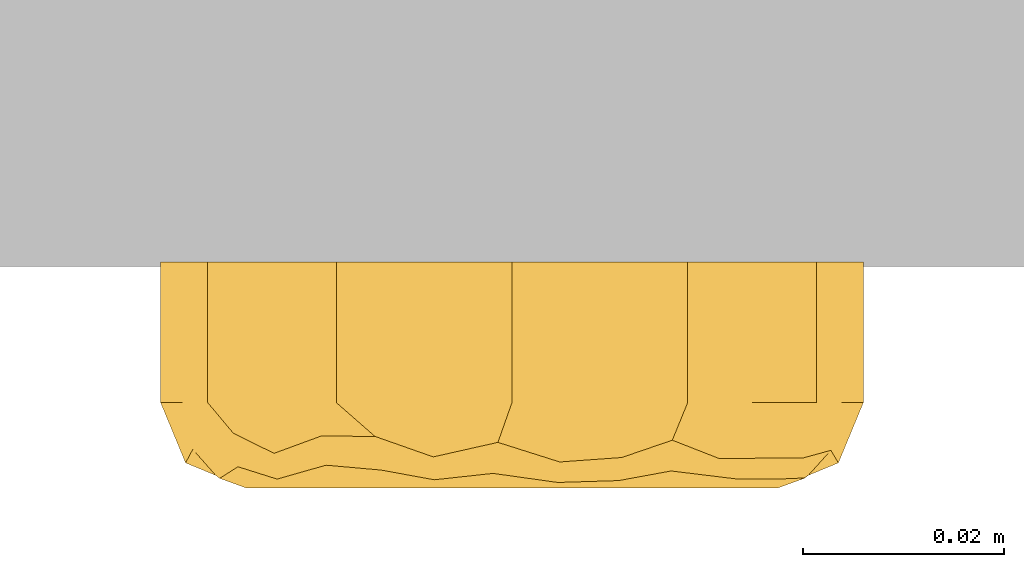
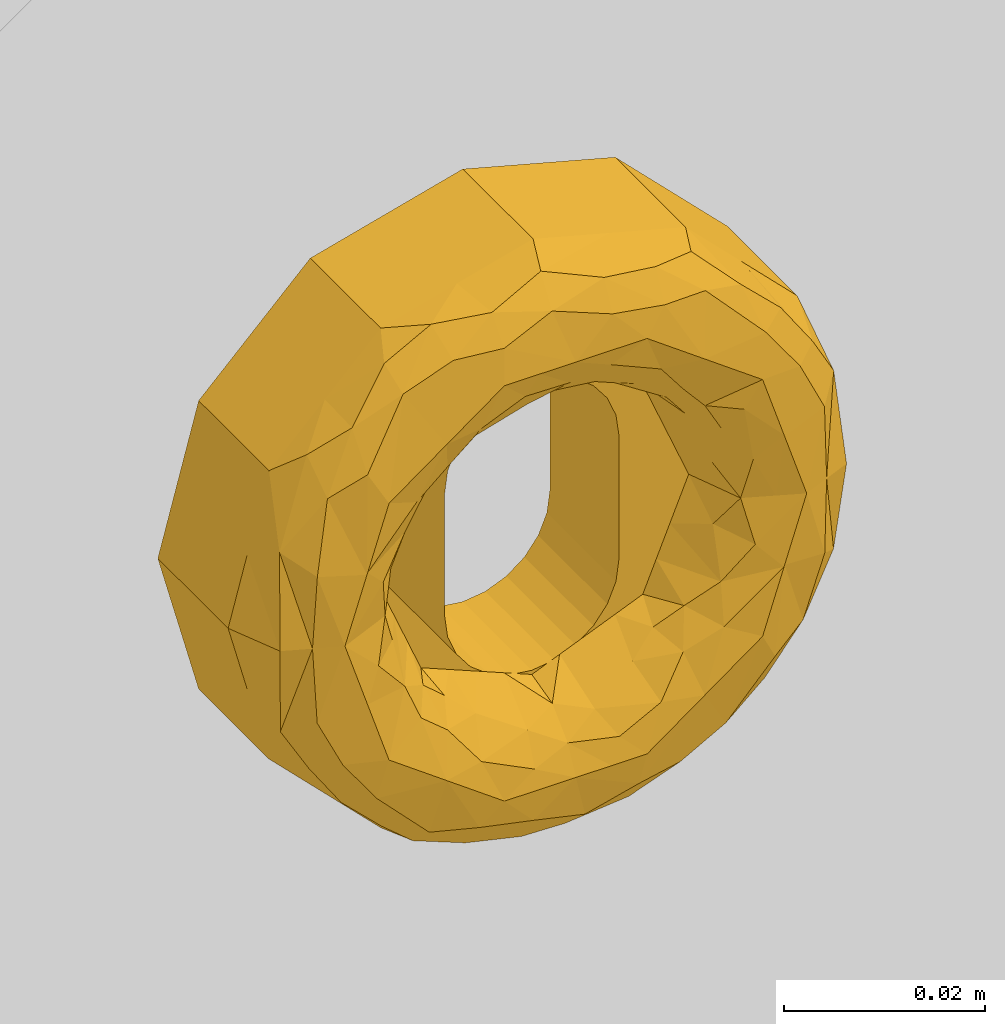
# One storey, part 2 of 2: 1 door.
"""IFC2X3 building model written with IfcOpenShell, lengths in feet."""

from ifc_helpers import new_model, entity, si_unit, converted_unit, derived_unit, direction, frame, origin, place, context, subcontext, project, spatial, face_set, surface_model, source, transform, mapped, type_object, type_shapes, element, save


model = new_model("IFC2X3")

# Units and contexts
model_context = context("Model", 3, precision=0.0001, world=origin(), true_north=direction((6.12303176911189e-17, 1.0)))
body_context = subcontext(model_context, "Body", "Model", "MODEL_VIEW")
ifc_project = project(units=[converted_unit("LENGTHUNIT", "FOOT", entity("IfcRatioMeasure", 0.3048), si_unit("LENGTHUNIT", "METRE"), dimensions=[1, 0, 0, 0, 0, 0, 0]), converted_unit("AREAUNIT", "SQUARE FOOT", entity("IfcRatioMeasure", 0.09290304), si_unit("AREAUNIT", "SQUARE_METRE"), dimensions=[2, 0, 0, 0, 0, 0, 0]), converted_unit("VOLUMEUNIT", "CUBIC FOOT", entity("IfcRatioMeasure", 0.028316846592), si_unit("VOLUMEUNIT", "CUBIC_METRE"), dimensions=[3, 0, 0, 0, 0, 0, 0]), converted_unit("PLANEANGLEUNIT", "DEGREE", entity("IfcRatioMeasure", 0.0174532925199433), si_unit("PLANEANGLEUNIT", "RADIAN"), dimensions=[0, 0, 0, 0, 0, 0, 0]), si_unit("MASSUNIT", "GRAM", prefix="KILO"), derived_unit("MASSDENSITYUNIT", [(si_unit("MASSUNIT", "GRAM", prefix="KILO"), 1), (si_unit("LENGTHUNIT", "METRE"), -3)]), si_unit("TIMEUNIT", "SECOND"), si_unit("FREQUENCYUNIT", "HERTZ"), si_unit("THERMODYNAMICTEMPERATUREUNIT", "DEGREE_CELSIUS"), derived_unit("THERMALTRANSMITTANCEUNIT", [(si_unit("MASSUNIT", "GRAM", prefix="KILO"), 1), (si_unit("THERMODYNAMICTEMPERATUREUNIT", "KELVIN"), -1), (si_unit("TIMEUNIT", "SECOND"), -3)]), derived_unit("VOLUMETRICFLOWRATEUNIT", [(si_unit("LENGTHUNIT", "METRE"), 3), (si_unit("TIMEUNIT", "SECOND"), -1)]), si_unit("ELECTRICCURRENTUNIT", "AMPERE"), si_unit("ELECTRICVOLTAGEUNIT", "VOLT"), si_unit("POWERUNIT", "WATT"), si_unit("FORCEUNIT", "NEWTON"), si_unit("ILLUMINANCEUNIT", "LUX"), si_unit("LUMINOUSFLUXUNIT", "LUMEN"), si_unit("LUMINOUSINTENSITYUNIT", "CANDELA"), derived_unit("USERDEFINED", [(si_unit("MASSUNIT", "GRAM", prefix="KILO"), -1), (si_unit("LENGTHUNIT", "METRE"), -2), (si_unit("TIMEUNIT", "SECOND"), 3), (si_unit("LUMINOUSFLUXUNIT", "LUMEN"), 1)]), derived_unit("LINEARVELOCITYUNIT", [(si_unit("LENGTHUNIT", "METRE"), 1), (si_unit("TIMEUNIT", "SECOND"), -1)]), si_unit("PRESSUREUNIT", "PASCAL"), derived_unit("USERDEFINED", [(si_unit("LENGTHUNIT", "METRE"), -2), (si_unit("MASSUNIT", "GRAM", prefix="KILO"), 1), (si_unit("TIMEUNIT", "SECOND"), -2)])], contexts=[model_context])

# Site, building, storey
site_placement = place(None, origin())
site = spatial("IfcSite", under=ifc_project, at=site_placement, Name="Default", CompositionType="ELEMENT")
building_placement = place(site_placement, origin())
building = spatial("IfcBuilding", under=site, at=building_placement, CompositionType="ELEMENT")
storey_placement = place(building_placement, origin())
storey = spatial("IfcBuildingStorey", under=building, at=storey_placement, Name="Level 1", CompositionType="ELEMENT", Elevation=0.0)

# Door
door_style = type_object("IfcDoorStyle", Name="dline_Hardware_TomDixonCollection_Escutcheons_Oval_Half_SnapOn_13.25", ConstructionType="NOTDEFINED", OperationType="DOUBLE_SWING_RIGHT", ParameterTakesPrecedence=False, Sizeable=False)
shared_shape = source(origin(), body_context, "Body", "SurfaceModel", [
    surface_model("IfcFaceBasedSurfaceModel", [(-0.114829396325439, 0.0, -0.00161922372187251), (-0.0994451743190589, 0.0574146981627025, -0.00161922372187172), (-0.0574146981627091, 0.0994451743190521, -0.00161922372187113), (0.0, 0.114829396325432, -0.00161922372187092), (0.0574146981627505, 0.099445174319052, -0.00161922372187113), (0.0994451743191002, 0.0574146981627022, -0.00161922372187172), (0.11482939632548, 0.0, -0.00161922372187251), (0.0328083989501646, 0.0, -0.00161922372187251), (0.0328083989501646, 0.0246062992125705, -0.00161922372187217), (0.0316904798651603, 0.0330977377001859, -0.00161922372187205), (0.0284129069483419, 0.0410104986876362, -0.00161922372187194), (0.023199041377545, 0.0478053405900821, -0.00161922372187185), (0.0164041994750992, 0.0530192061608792, -0.00161922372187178), (0.00849143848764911, 0.0562967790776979, -0.00161922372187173), (0.0, 0.0574146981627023, -0.00161922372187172), (-0.0084914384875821, 0.056296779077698, -0.00161922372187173), (-0.0164041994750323, 0.0530192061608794, -0.00161922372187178), (-0.0231990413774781, 0.0478053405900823, -0.00161922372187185), (-0.028412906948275, 0.0410104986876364, -0.00161922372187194), (-0.0316904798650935, 0.0330977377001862, -0.00161922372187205), (-0.0328083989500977, 0.0246062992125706, -0.00161922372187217), (-0.0328083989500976, 0.0, -0.00161922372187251), (0.0994451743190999, -0.0574146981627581, -0.0016192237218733), (0.0574146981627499, -0.0994451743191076, -0.00161922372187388), (0.0, -0.114829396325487, -0.0016192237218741), (-0.0574146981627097, -0.099445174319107, -0.00161922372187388), (-0.0994451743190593, -0.0574146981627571, -0.0016192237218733), (-0.0328083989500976, -0.0246062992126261, -0.00161922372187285), (-0.0316904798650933, -0.0330977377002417, -0.00161922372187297), (-0.0284129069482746, -0.0410104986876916, -0.00161922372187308), (-0.0231990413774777, -0.0478053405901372, -0.00161922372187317), (-0.016404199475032, -0.053019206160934, -0.00161922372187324), (-0.00849143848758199, -0.0562967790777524, -0.00161922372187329), (0.0, -0.0574146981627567, -0.0016192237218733), (0.00849143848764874, -0.0562967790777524, -0.00161922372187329), (0.0164041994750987, -0.0530192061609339, -0.00161922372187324), (0.0231990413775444, -0.0478053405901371, -0.00161922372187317), (0.0284129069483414, -0.0410104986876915, -0.00161922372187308), (0.03169047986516, -0.0330977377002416, -0.00161922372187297), (0.0328083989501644, -0.0246062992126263, -0.00161922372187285), (0.105366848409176, 0.0353147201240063, 0.0442913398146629), (0.107137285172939, 0.0287073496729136, -0.0016192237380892), (-0.107137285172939, 0.0287073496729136, 0.0442913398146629), (-0.0994451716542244, 0.0574146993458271, 0.0442913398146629), (-0.107137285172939, 0.0287073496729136, -0.0016192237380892), (0.0784299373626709, 0.0784299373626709, 0.0442913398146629), (0.0994451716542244, 0.0574146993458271, 0.0442913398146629), (0.0784299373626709, 0.0784299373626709, -0.0016192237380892), (0.114829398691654, 0.0, 0.0442913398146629), (0.0574146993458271, 0.0994451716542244, 0.0442913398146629), (0.0287073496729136, 0.107137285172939, -0.0016192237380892), (0.0, 0.114829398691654, 0.0442913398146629), (0.0287073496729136, 0.107137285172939, 0.0442913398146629), (-0.0287073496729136, 0.107137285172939, 0.0442913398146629), (-0.0287073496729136, 0.107137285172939, -0.0016192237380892), (-0.0784299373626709, 0.0784299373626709, -0.0016192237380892), (-0.0784299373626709, 0.0784299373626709, 0.0442913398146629), (-0.0574146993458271, 0.0994451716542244, 0.0442913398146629), (-0.114829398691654, 0.0, 0.0442913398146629), (-0.105366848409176, -0.0353147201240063, 0.0442913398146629), (-0.107137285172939, -0.0287073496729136, -0.0016192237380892), (0.107137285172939, -0.0287073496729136, 0.0442913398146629), (0.0994451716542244, -0.0574146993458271, 0.0442913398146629), (0.107137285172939, -0.0287073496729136, -0.0016192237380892), (-0.0784299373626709, -0.0784299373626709, 0.0442913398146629), (-0.0994451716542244, -0.0574146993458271, 0.0442913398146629), (-0.0784299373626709, -0.0784299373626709, -0.0016192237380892), (-0.0574146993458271, -0.0994451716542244, 0.0442913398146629), (-0.0287073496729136, -0.107137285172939, -0.0016192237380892), (0.0, -0.114829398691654, 0.0442913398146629), (-0.0287073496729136, -0.107137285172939, 0.0442913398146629), (0.0287073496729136, -0.107137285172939, 0.0442913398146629), (0.0287073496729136, -0.107137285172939, -0.0016192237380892), (0.0784299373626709, -0.0784299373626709, -0.0016192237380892), (0.0784299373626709, -0.0784299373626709, 0.0442913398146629), (0.0574146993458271, -0.0994451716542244, 0.0442913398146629), (0.104185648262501, 0.0354321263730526, 0.0599091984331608), (0.10769384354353, 0.0266302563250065, 0.0442913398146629), (-0.00460470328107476, 0.111512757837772, 0.0573030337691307), (-0.0257417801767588, 0.105345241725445, 0.0620490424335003), (-0.00619756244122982, 0.102307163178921, 0.0674389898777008), (0.0358880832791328, 0.102162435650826, 0.0622435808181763), (0.0155927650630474, 0.105819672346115, 0.0637049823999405), (0.095525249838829, 0.0295866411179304, 0.0689313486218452), (0.0948657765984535, 0.0518237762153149, 0.062460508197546), (0.086100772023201, 0.0492820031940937, 0.0693365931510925), (-0.0607702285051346, 0.086708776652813, 0.0647584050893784), (-0.0427446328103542, 0.0948088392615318, 0.0663538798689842), (-0.0447977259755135, 0.103246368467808, 0.0553425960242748), (0.106661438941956, 0.0, 0.0640105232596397), (0.0676873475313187, 0.0841498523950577, 0.0625807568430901), (0.0520024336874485, 0.0896197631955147, 0.0666459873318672), (0.0733057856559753, 0.0671199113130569, 0.0692450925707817), (0.0703377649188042, 0.051103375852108, 0.0721784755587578), (0.0523817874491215, 0.0989614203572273, 0.0565925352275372), (0.0348720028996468, 0.0918425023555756, 0.0697874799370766), (-0.0623906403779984, 0.093721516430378, 0.0552425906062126), (0.0968018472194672, 0.0, 0.0680944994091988), (0.0486022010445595, 0.0668951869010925, 0.0721784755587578), (-0.104311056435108, 0.0357333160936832, 0.0595848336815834), (-0.0895434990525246, 0.0554412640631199, 0.0652685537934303), (-0.0910296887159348, 0.0668764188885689, 0.0543423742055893), (-0.0253979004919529, 0.0954931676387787, 0.0695258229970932), (-0.0486022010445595, 0.0668951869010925, 0.0721784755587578), (-0.0777445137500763, 0.0769081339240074, 0.0608819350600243), (-0.0767557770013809, 0.0629682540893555, 0.0693009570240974), (-0.0955414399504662, 0.0286489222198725, 0.0690663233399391), (-0.0968018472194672, 0.0, 0.0680944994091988), (-0.10769384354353, 0.0266302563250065, 0.0442913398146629), (-0.106661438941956, 0.0, 0.0640105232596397), (0.0149465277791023, 0.0955802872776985, 0.0703999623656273), (-0.0786400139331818, 0.025551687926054, 0.0721784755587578), (-0.0869422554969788, 0.0, 0.0721784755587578), (0.0869422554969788, 0.0, 0.0721784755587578), (0.0786400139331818, 0.025551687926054, 0.0721784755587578), (0.0827525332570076, 0.069546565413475, 0.0624632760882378), (0.0268666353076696, 0.0826869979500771, 0.0721784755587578), (0.0, 0.0826869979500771, 0.0721784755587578), (-0.0703377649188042, 0.051103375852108, 0.0721784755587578), (-0.0268666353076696, 0.0826869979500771, 0.0721784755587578), (-0.104185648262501, -0.0354321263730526, 0.0599091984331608), (-0.10769384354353, -0.0266302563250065, 0.0442913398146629), (0.0895434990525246, -0.0554412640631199, 0.0652685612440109), (0.0786400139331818, -0.025551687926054, 0.0721784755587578), (0.0767557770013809, -0.0629682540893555, 0.0693009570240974), (0.10769384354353, -0.0266302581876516, 0.0442913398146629), (0.104311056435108, -0.0357333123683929, 0.0595848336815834), (-0.095525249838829, -0.0295866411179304, 0.0689313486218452), (-0.0948657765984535, -0.0518237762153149, 0.062460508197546), (-0.086100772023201, -0.0492820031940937, 0.0693365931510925), (-0.0486022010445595, -0.0668951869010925, 0.0721784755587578), (-0.0703377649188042, -0.051103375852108, 0.0721784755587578), (-0.0733057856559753, -0.0671199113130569, 0.0692450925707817), (-0.0358880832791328, -0.102162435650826, 0.0622435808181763), (-0.0155927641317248, -0.105819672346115, 0.0637049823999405), (-0.0676873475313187, -0.0841498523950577, 0.0625807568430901), (-0.0520024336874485, -0.0896197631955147, 0.0666459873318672), (-0.0348720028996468, -0.0918425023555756, 0.0697874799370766), (0.00460470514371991, -0.111512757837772, 0.0573030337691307), (0.0910296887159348, -0.0668764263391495, 0.0543423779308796), (0.0607702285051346, -0.0867087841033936, 0.0647584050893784), (0.0447977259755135, -0.103246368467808, 0.0553425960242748), (0.0623906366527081, -0.093721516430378, 0.0552425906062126), (0.0427446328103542, -0.0948088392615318, 0.0663538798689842), (0.025397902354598, -0.0954931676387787, 0.0695258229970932), (0.0257417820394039, -0.105345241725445, 0.0620490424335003), (0.0777445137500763, -0.0769081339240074, 0.0608819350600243), (0.0955414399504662, -0.0286489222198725, 0.0690663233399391), (0.00619756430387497, -0.102307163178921, 0.0674389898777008), (-0.0149465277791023, -0.0955802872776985, 0.0703999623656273), (0.0486022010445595, -0.0668951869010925, 0.0721784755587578), (-0.0523817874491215, -0.0989614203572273, 0.0565925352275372), (-0.0786400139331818, -0.025551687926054, 0.0721784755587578), (-0.0827525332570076, -0.069546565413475, 0.0624632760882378), (-0.0268666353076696, -0.0826869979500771, 0.0721784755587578), (0.0, -0.0826869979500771, 0.0721784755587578), (0.0703377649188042, -0.051103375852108, 0.0721784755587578), (0.0268666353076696, -0.0826869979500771, 0.0721784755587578), (0.0595088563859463, 0.030643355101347, 0.0637183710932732), (0.0784134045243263, 0.0262491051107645, 0.0721784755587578), (0.0484802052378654, 0.0383875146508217, 0.0564348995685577), (0.044356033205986, 0.052351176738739, 0.0653110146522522), (0.0548929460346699, 0.0432777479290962, 0.0663662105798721), (-0.0606496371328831, 0.0123952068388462, 0.0565691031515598), (-0.0519581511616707, 0.0171627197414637, 0.0434711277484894), (-0.0590671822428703, 0.0, 0.0434711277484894), (0.0724360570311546, 0.0148040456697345, 0.0689583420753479), (0.06114686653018, 0.0148187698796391, 0.0584502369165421), (0.0669351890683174, 0.0, 0.0637183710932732), (0.0590671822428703, 0.0, 0.0434711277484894), (0.000194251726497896, 0.0621994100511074, 0.0571559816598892), (0.000380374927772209, 0.0715737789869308, 0.0675622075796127), (0.0129081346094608, 0.0648935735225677, 0.0628922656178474), (0.0519581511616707, 0.0171627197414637, 0.0434711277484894), (0.0337963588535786, 0.0663290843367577, 0.0692203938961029), (-0.0784134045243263, 0.0262491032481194, 0.0721784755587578), (-0.0578487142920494, 0.0450543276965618, 0.0686270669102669), (0.0468624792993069, 0.0294647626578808, 0.0434711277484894), (-0.0595088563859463, 0.030643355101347, 0.0637183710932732), (-0.0700549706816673, 0.0169776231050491, 0.0678898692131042), (-0.0337963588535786, 0.0663290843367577, 0.0692203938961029), (-0.0123898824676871, 0.0651603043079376, 0.063072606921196), (-0.029567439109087, 0.055287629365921, 0.05807089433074), (-0.0669351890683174, 0.0, 0.0637183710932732), (-0.044356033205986, 0.052351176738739, 0.0653110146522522), (-0.0487650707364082, 0.039685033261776, 0.0583744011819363), (0.0417668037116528, 0.0417668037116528, 0.0434711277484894), (0.0394373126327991, 0.0467448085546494, 0.0549166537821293), (0.0143742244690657, 0.0754772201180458, 0.0702819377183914), (0.0208834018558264, 0.0504169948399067, 0.0434711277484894), (0.0104417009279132, 0.0547420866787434, 0.0434711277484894), (-0.0313251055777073, 0.0460918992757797, 0.0434711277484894), (-0.0390795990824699, 0.0469961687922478, 0.0548264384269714), (0.0295674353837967, 0.0552876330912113, 0.0580708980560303), (-0.0104417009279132, 0.0547420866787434, 0.0434711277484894), (-0.0134333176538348, 0.0826869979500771, 0.0721784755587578), (-0.017739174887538, 0.0738889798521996, 0.0699371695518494), (0.0313251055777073, 0.0460918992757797, 0.0434711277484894), (-0.0417668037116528, 0.0417668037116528, 0.0434711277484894), (-0.0468624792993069, 0.0294647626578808, 0.0434711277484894), (-0.0208834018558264, 0.0504169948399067, 0.0434711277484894), (0.0, 0.0590671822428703, 0.0434711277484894), (-0.0647844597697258, -0.0398912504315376, 0.0699765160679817), (-0.0695305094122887, -0.0168505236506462, 0.0675413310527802), (-0.0784134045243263, -0.0262491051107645, 0.0721784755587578), (-0.0295674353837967, -0.0552876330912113, 0.05807089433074), (-0.0435471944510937, -0.0435946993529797, 0.0559706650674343), (-0.0313251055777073, -0.0460918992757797, 0.0434711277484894), (-0.0208834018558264, -0.0504169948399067, 0.0434711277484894), (-0.0104417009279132, -0.0547420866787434, 0.0434711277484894), (-0.0129081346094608, -0.0648935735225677, 0.0628922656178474), (-0.059508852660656, -0.0306433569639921, 0.0637183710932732), (-0.0530390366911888, -0.042167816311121, 0.0645321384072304), (-0.0743755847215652, -0.0386762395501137, 0.0721784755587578), (-0.0417668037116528, -0.0417668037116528, 0.0434711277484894), (-0.0510150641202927, -0.0340855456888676, 0.0553797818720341), (0.0606496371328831, -0.0123952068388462, 0.0565691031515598), (0.0519581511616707, -0.0171627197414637, 0.0434711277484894), (-0.0337963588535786, -0.0663290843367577, 0.0692203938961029), (-0.0443560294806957, -0.0523511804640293, 0.0653110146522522), (0.044356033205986, -0.052351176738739, 0.0653110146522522), (0.0337963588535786, -0.0663290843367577, 0.0692203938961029), (0.0784134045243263, -0.0262491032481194, 0.0721784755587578), (0.0578487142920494, -0.0450543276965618, 0.0686270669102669), (0.0595088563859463, -0.030643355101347, 0.0637183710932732), (0.0700549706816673, -0.0169776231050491, 0.0678898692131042), (-0.060554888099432, -0.0119150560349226, 0.056179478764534), (0.0123898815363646, -0.0651603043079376, 0.063072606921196), (0.0295674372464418, -0.055287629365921, 0.05807089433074), (-0.0776933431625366, 0.0, 0.0682675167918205), (0.0487650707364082, -0.039685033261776, 0.0583744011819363), (-0.0143742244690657, -0.0754772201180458, 0.0702819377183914), (0.0104417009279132, -0.0547420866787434, 0.0434711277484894), (0.0208834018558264, -0.0504169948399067, 0.0434711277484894), (0.0313251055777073, -0.0460918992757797, 0.0434711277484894), (0.0390795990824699, -0.0469961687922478, 0.0548264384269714), (-0.000194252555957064, -0.0621994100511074, 0.0571559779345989), (-0.000380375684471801, -0.0715737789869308, 0.0675622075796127), (0.0134333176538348, -0.0826869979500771, 0.0721784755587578), (0.017739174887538, -0.0738889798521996, 0.0699371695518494), (-0.0519581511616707, -0.0171627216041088, 0.0434711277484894), (-0.0468624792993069, -0.0294647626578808, 0.0434711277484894), (0.0417668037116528, -0.0417668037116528, 0.0434711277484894), (0.0468624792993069, -0.0294647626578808, 0.0434711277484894), (0.0, -0.0590671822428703, 0.0434711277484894), (-0.0328083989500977, 0.0, 0.0434711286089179), (-0.0328083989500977, 0.0246062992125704, 0.0434711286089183), (-0.0316904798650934, 0.0330977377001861, 0.0434711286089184), (-0.0284129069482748, 0.0410104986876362, 0.0434711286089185), (-0.0231990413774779, 0.0478053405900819, 0.0434711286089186), (-0.0164041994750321, 0.0530192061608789, 0.0434711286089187), (-0.00849143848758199, 0.0562967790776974, 0.0434711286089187), (0.0, 0.0574146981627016, 0.0434711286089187), (0.008491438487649, 0.0562967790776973, 0.0434711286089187), (0.0164041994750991, 0.0530192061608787, 0.0434711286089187), (0.0231990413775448, 0.0478053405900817, 0.0434711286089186), (0.0284129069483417, 0.0410104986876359, 0.0434711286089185), (0.0316904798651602, 0.0330977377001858, 0.0434711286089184), (0.0328083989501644, 0.0246062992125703, 0.0434711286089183), (0.0328083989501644, 0.0, 0.0434711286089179), (0.0328083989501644, -0.0246062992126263, 0.0434711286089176), (0.0316904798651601, -0.0330977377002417, 0.0434711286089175), (0.0284129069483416, -0.0410104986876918, 0.0434711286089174), (0.0231990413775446, -0.0478053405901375, 0.0434711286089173), (0.0164041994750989, -0.0530192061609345, 0.0434711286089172), (0.00849143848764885, -0.056296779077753, 0.0434711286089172), (0.0, -0.0574146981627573, 0.0434711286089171), (-0.00849143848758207, -0.056296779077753, 0.0434711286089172), (-0.0164041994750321, -0.0530192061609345, 0.0434711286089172), (-0.0231990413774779, -0.0478053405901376, 0.0434711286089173), (-0.0284129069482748, -0.0410104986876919, 0.0434711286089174), (-0.0316904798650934, -0.0330977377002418, 0.0434711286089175), (-0.0328083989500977, -0.0246062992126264, 0.0434711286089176)], [face_set([[[0, 1, 2, 3, 4, 5, 6, 7, 8, 9, 10, 11, 12, 13, 14, 15, 16, 17, 18, 19, 20, 21]], [[6, 22, 23, 24, 25, 26, 0, 21, 27, 28, 29, 30, 31, 32, 33, 34, 35, 36, 37, 38, 39, 7]], [[5, 40, 41]], [[42, 43, 1, 44]], [[45, 46, 5, 47]], [[41, 48, 6]], [[48, 41, 40]], [[49, 45, 47, 4]], [[50, 3, 51, 52]], [[5, 46, 40]], [[4, 50, 52, 49]], [[53, 51, 3, 54]], [[55, 1, 43, 56]], [[2, 55, 56, 57]], [[44, 0, 58, 42]], [[54, 2, 57, 53]], [[26, 59, 60]], [[61, 62, 22, 63]], [[64, 65, 26, 66]], [[60, 58, 0]], [[58, 60, 59]], [[67, 64, 66, 25]], [[68, 24, 69, 70]], [[26, 65, 59]], [[25, 68, 70, 67]], [[71, 69, 24, 72]], [[73, 22, 62, 74]], [[23, 73, 74, 75]], [[63, 6, 48, 61]], [[72, 23, 75, 71]], [[46, 76, 77]], [[78, 79, 80]], [[81, 52, 82]], [[83, 84, 85]], [[86, 87, 88]], [[76, 89, 77]], [[90, 91, 92]], [[76, 84, 83]], [[85, 92, 93]], [[94, 91, 90]], [[91, 81, 95]], [[78, 53, 79]], [[78, 82, 52]], [[89, 48, 77]], [[88, 96, 86]], [[83, 97, 76]], [[98, 93, 92]], [[99, 100, 101]], [[84, 46, 45]], [[87, 102, 79]], [[102, 87, 103]], [[104, 105, 86]], [[106, 99, 107]], [[49, 90, 45]], [[108, 109, 99]], [[82, 110, 95]], [[100, 111, 105]], [[43, 101, 56]], [[99, 43, 108]], [[108, 58, 109]], [[107, 112, 106]], [[97, 83, 113]], [[97, 89, 76]], [[46, 84, 76]], [[85, 93, 114]], [[114, 113, 83]], [[85, 84, 115]], [[85, 115, 92]], [[83, 85, 114]], [[90, 92, 115]], [[98, 92, 91]], [[90, 115, 45]], [[94, 90, 49]], [[51, 78, 52]], [[81, 91, 94]], [[94, 49, 52]], [[52, 81, 94]], [[95, 98, 91]], [[110, 82, 80]], [[82, 95, 81]], [[98, 95, 116]], [[102, 117, 80]], [[116, 95, 110]], [[117, 116, 110]], [[102, 80, 79]], [[117, 110, 80]], [[82, 78, 80]], [[57, 88, 53]], [[86, 118, 103]], [[117, 102, 119]], [[87, 79, 88]], [[119, 102, 103]], [[103, 87, 86]], [[78, 51, 53]], [[53, 88, 79]], [[88, 57, 96]], [[101, 100, 104]], [[104, 86, 96]], [[96, 57, 56]], [[56, 104, 96]], [[105, 104, 100]], [[56, 101, 104]], [[99, 101, 43]], [[84, 45, 115]], [[86, 105, 118]], [[100, 106, 111]], [[111, 118, 105]], [[99, 109, 107]], [[111, 106, 112]], [[99, 106, 100]], [[65, 120, 121]], [[122, 123, 124]], [[125, 89, 126]], [[127, 128, 129]], [[130, 131, 132]], [[120, 109, 121]], [[133, 70, 134]], [[120, 128, 127]], [[129, 132, 131]], [[135, 136, 132]], [[136, 133, 137]], [[128, 65, 64]], [[138, 134, 70]], [[127, 107, 120]], [[126, 122, 139]], [[109, 58, 121]], [[62, 139, 74]], [[140, 141, 142]], [[67, 135, 64]], [[143, 144, 145]], [[138, 71, 145]], [[146, 124, 140]], [[147, 126, 97]], [[138, 145, 148]], [[140, 143, 141]], [[134, 149, 137]], [[144, 143, 150]], [[151, 136, 135]], [[126, 62, 125]], [[125, 48, 89]], [[97, 113, 147]], [[107, 127, 112]], [[107, 109, 120]], [[65, 128, 120]], [[129, 131, 152]], [[152, 112, 127]], [[129, 128, 153]], [[129, 153, 132]], [[127, 129, 152]], [[135, 132, 153]], [[130, 132, 136]], [[135, 153, 64]], [[151, 135, 67]], [[69, 138, 70]], [[133, 136, 151]], [[151, 67, 70]], [[70, 133, 151]], [[137, 130, 136]], [[149, 134, 148]], [[134, 137, 133]], [[130, 137, 154]], [[144, 155, 148]], [[154, 137, 149]], [[155, 154, 149]], [[144, 148, 145]], [[155, 149, 148]], [[134, 138, 148]], [[75, 141, 71]], [[140, 156, 150]], [[155, 144, 157]], [[143, 145, 141]], [[157, 144, 150]], [[150, 143, 140]], [[138, 69, 71]], [[71, 141, 145]], [[141, 75, 142]], [[139, 122, 146]], [[146, 140, 142]], [[142, 75, 74]], [[74, 146, 142]], [[124, 146, 122]], [[74, 139, 146]], [[126, 139, 62]], [[128, 64, 153]], [[140, 124, 156]], [[122, 147, 123]], [[123, 156, 124]], [[126, 89, 97]], [[123, 147, 113]], [[126, 147, 122]], [[158, 93, 159]], [[160, 161, 162]], [[158, 160, 162]], [[163, 164, 165]], [[158, 166, 167]], [[168, 169, 167]], [[170, 171, 172]], [[173, 158, 167]], [[174, 98, 161]], [[161, 98, 162]], [[118, 175, 176]], [[158, 177, 160]], [[178, 164, 163]], [[179, 178, 163]], [[175, 176, 178]], [[180, 181, 182]], [[179, 183, 112]], [[184, 185, 176]], [[175, 178, 179]], [[113, 159, 166]], [[186, 187, 160]], [[188, 174, 116]], [[184, 103, 180]], [[189, 190, 172]], [[182, 191, 192]], [[161, 193, 174]], [[170, 181, 171]], [[180, 119, 103]], [[170, 194, 181]], [[171, 117, 188]], [[195, 196, 171]], [[174, 98, 116]], [[193, 189, 172]], [[174, 193, 172]], [[187, 197, 193]], [[184, 180, 182]], [[118, 176, 103]], [[196, 181, 180]], [[185, 184, 192]], [[186, 160, 177]], [[158, 173, 177]], [[161, 160, 187]], [[158, 93, 162]], [[98, 162, 93]], [[187, 193, 161]], [[173, 167, 169]], [[189, 193, 197]], [[187, 186, 197]], [[168, 167, 166]], [[168, 166, 113]], [[159, 166, 158]], [[112, 179, 175]], [[183, 179, 163]], [[183, 163, 165]], [[198, 199, 185]], [[199, 164, 178]], [[178, 176, 185]], [[184, 176, 103]], [[178, 185, 199]], [[198, 185, 192]], [[182, 200, 191]], [[192, 184, 182]], [[191, 198, 192]], [[172, 190, 170]], [[194, 200, 181]], [[201, 170, 190]], [[172, 171, 188]], [[195, 117, 171]], [[196, 195, 119]], [[180, 196, 119]], [[181, 196, 171]], [[172, 188, 174]], [[117, 188, 116]], [[182, 181, 200]], [[194, 170, 201]], [[202, 203, 204]], [[205, 206, 207]], [[208, 209, 210]], [[211, 212, 202]], [[213, 131, 202]], [[214, 206, 215]], [[216, 217, 169]], [[202, 204, 213]], [[218, 130, 219]], [[220, 150, 221]], [[156, 222, 223]], [[130, 131, 219]], [[224, 217, 216]], [[225, 224, 216]], [[203, 183, 226]], [[221, 227, 228]], [[204, 112, 229]], [[220, 230, 223]], [[222, 224, 225]], [[226, 183, 165]], [[225, 168, 113]], [[231, 218, 154]], [[232, 233, 227]], [[222, 223, 224]], [[228, 234, 235]], [[219, 205, 218]], [[236, 227, 237]], [[221, 157, 150]], [[236, 232, 227]], [[237, 155, 231]], [[238, 239, 237]], [[218, 130, 154]], [[205, 208, 210]], [[218, 205, 210]], [[206, 214, 207]], [[220, 221, 228]], [[156, 223, 150]], [[239, 227, 221]], [[230, 220, 235]], [[207, 208, 205]], [[204, 203, 229]], [[203, 229, 183]], [[240, 211, 226]], [[203, 226, 211]], [[240, 226, 165]], [[203, 211, 202]], [[131, 212, 219]], [[202, 131, 212]], [[212, 206, 219]], [[211, 215, 212]], [[219, 206, 205]], [[240, 215, 211]], [[241, 214, 215]], [[212, 215, 206]], [[241, 215, 240]], [[113, 225, 222]], [[168, 225, 216]], [[168, 216, 169]], [[242, 243, 230]], [[243, 217, 224]], [[224, 223, 230]], [[220, 223, 150]], [[224, 230, 243]], [[242, 230, 235]], [[228, 233, 234]], [[235, 220, 228]], [[234, 242, 235]], [[210, 209, 236]], [[244, 236, 209]], [[210, 236, 237]], [[210, 237, 231]], [[238, 155, 237]], [[239, 238, 157]], [[221, 239, 157]], [[227, 239, 237]], [[210, 231, 218]], [[155, 231, 154]], [[228, 227, 233]], [[232, 236, 244]], [[169, 186, 201, 198, 165, 245, 246, 247, 248, 249, 250, 251, 252, 253, 254, 255, 256, 257, 258, 259]], [[165, 214, 244, 242, 169, 259, 260, 261, 262, 263, 264, 265, 266, 267, 268, 269, 270, 271, 272, 245]], [[258, 259, 260, 39, 7, 8]], [[39, 260, 261, 38]], [[38, 261, 262, 37]], [[36, 263, 264, 35]], [[37, 262, 263, 36]], [[35, 264, 265, 34]], [[266, 33, 34, 265]], [[33, 266, 267, 32]], [[32, 267, 268, 31]], [[30, 269, 270, 29]], [[31, 268, 269, 30]], [[29, 270, 271, 28]], [[272, 27, 28, 271]], [[272, 245, 246, 20, 21, 27]], [[20, 246, 247, 19]], [[19, 247, 248, 18]], [[17, 249, 250, 16]], [[18, 248, 249, 17]], [[16, 250, 251, 15]], [[252, 14, 15, 251]], [[14, 252, 253, 13]], [[13, 253, 254, 12]], [[11, 255, 256, 10]], [[12, 254, 255, 11]], [[10, 256, 257, 9]], [[258, 8, 9, 257]]])]),
])
type_shapes(door_style, [shared_shape])
door_placement = place(storey_placement, frame((-2.5582853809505, 5.54954297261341, 3.28187929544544), z_axis=(0.0, -1.0, 0.0), x_axis=(-1.0, 0.0, 0.0)))
element("IfcDoor", 1, at=door_placement, inside=storey, type_object=door_style, Name="12.9002.02.160:dline_Hardware_TomDixonCollection_Escutcheons_Oval_Half_SnapOn_13.25", ObjectType="12.9002.02.160:dline_Hardware_TomDixonCollection_Escutcheons_Oval_Half_SnapOn_13.25", OverallHeight=0.435510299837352, OverallWidth=0.442913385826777, context=body_context, shape_type="MappedRepresentation", body=[
    mapped(shared_shape, transform((0.0, 0.0, 0.0), scale=1.0)),
])

save(model, "model.ifc")
